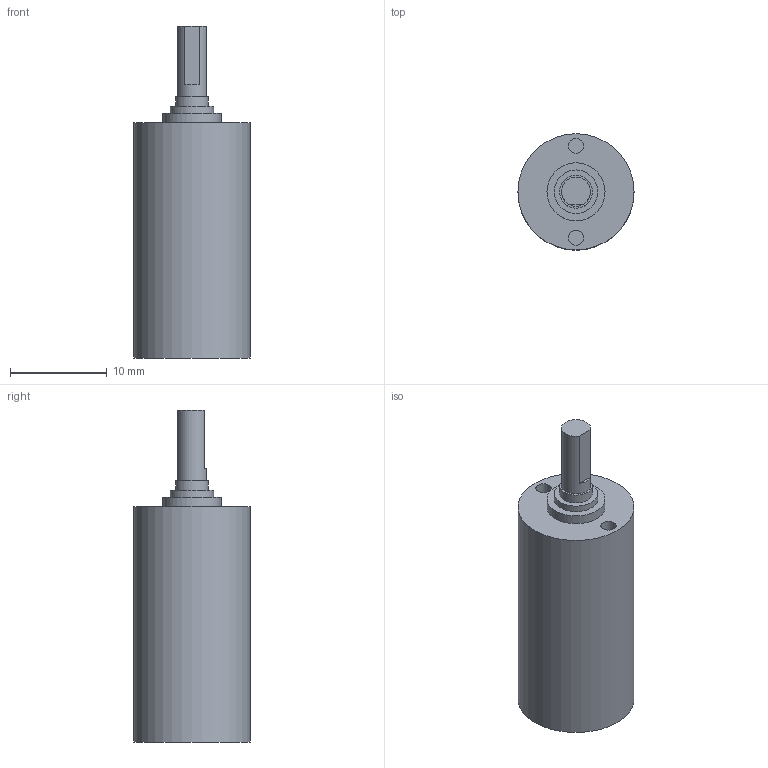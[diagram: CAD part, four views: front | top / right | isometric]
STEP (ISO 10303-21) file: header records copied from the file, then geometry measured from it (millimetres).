
FILE_DESCRIPTION((''),'2;1');
FILE_NAME('G:\Disegni\Progetti\D8500÷D8599\D8514\Riduttori\E - Riduttori STEP - SBZ\12_4 STEP\12_4 3stage.stp','2012-05-24T15:47:40',('bonazzoli'),(''),'Autodesk Inventor 2012','Autodesk Inventor 2012','');
FILE_SCHEMA(('AUTOMOTIVE_DESIGN { 1 0 10303 214 1 1 1 1 }'));
Length unit declared in the file: millimetre
Products named in the file (1): 12_4 3stage
Bounding box: 12 x 12 x 34.3 mm (x, y, z)
Volume: 2839.4 mm3; surface area: 1269.8 mm2
Topology: 1 solids, 1 shells, 17 faces, 27 edges, 18 vertices
Faces by surface type: plane 10, cylinder 7
Full cylindrical faces by diameter (mm): 1.567 x2, 3 x1, 3.4 x1, 4.5 x1, 6 x1, 12 x1
Entity records: 378 total; most frequent: DIRECTION 70, CARTESIAN_POINT 54, ORIENTED_EDGE 38, AXIS2_PLACEMENT_3D 33, EDGE_LOOP 30, EDGE_CURVE 19, VERTEX_POINT 17, FACE_OUTER_BOUND 17
